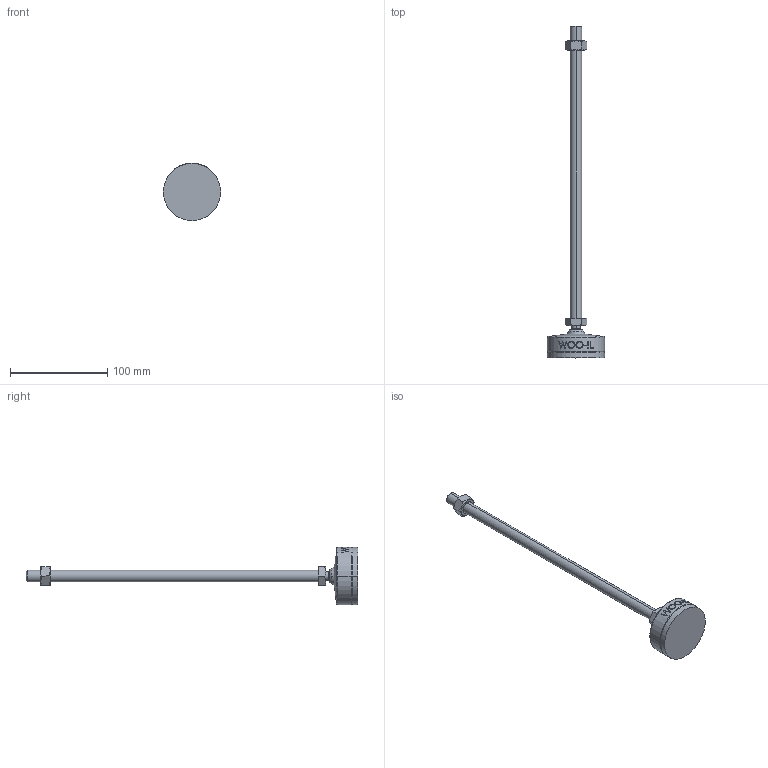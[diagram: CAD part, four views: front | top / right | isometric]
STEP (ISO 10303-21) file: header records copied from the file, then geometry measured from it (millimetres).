
FILE_DESCRIPTION (( 'STEP AP214' ), '1' );
FILE_NAME ('MFNR59-M12-300.step', '2021-02-22T09:06:26', ( '' ), ( '' ), 'SwSTEP 2.0', 'SolidWorks 2019', '' );
FILE_SCHEMA (( 'AUTOMOTIVE_DESIGN' ));
Length unit declared in the file: millimetre
Products named in the file (2): MFNR59-M12-300
Bounding box: 59 x 341 x 59 mm (x, y, z)
Volume: 102794 mm3; surface area: 23715.7 mm2
Topology: 2 solids, 2 shells, 105 faces, 245 edges, 156 vertices
Faces by surface type: plane 47, cone 18, cylinder 18, bspline 16, torus 4, sphere 2
Entity records: 4515 total; most frequent: CARTESIAN_POINT 2178, ORIENTED_EDGE 490, DIRECTION 437, EDGE_CURVE 245, AXIS2_PLACEMENT_3D 167, VERTEX_POINT 156, EDGE_LOOP 119, FACE_OUTER_BOUND 105
